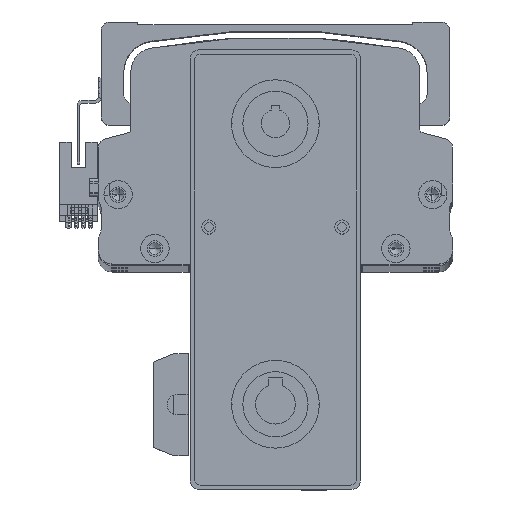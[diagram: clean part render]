
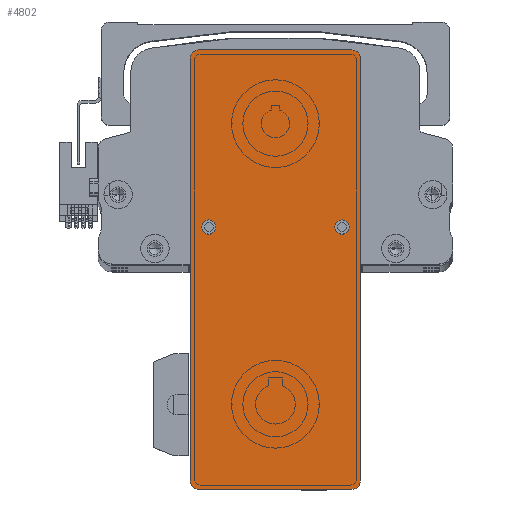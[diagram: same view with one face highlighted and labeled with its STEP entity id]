
A CAD part, top view. The second image highlights one B-rep face of the part: STEP entity #4802.
In plain terms, the highlighted planar face has unit normal (0, 0, 1) as drawn and (0, 0, -1) by its records, which use the part's own axes.
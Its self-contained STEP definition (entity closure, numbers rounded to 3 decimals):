
#572 = CARTESIAN_POINT ( 'NONE',  ( -77.5, 27., 0. ) ) ;
#2026 = EDGE_CURVE ( 'NONE', #9617, #29583, #80304, .T. ) ;
#4802 = ADVANCED_FACE ( 'NONE', ( #31908, #33966, #66808 ), #73308, .F. ) ;
#4939 = DIRECTION ( 'NONE',  ( -1., 0., 0. ) ) ;
#8603 = EDGE_CURVE ( 'NONE', #52304, #54530, #70162, .T. ) ;
#8796 = VECTOR ( 'NONE', #27834, 1000. ) ;
#9125 = DIRECTION ( 'NONE',  ( 0., 0., -1. ) ) ;
#9617 = VERTEX_POINT ( 'NONE', #47750 ) ;
#9789 = DIRECTION ( 'NONE',  ( 0., 0., -1. ) ) ;
#9922 = VERTEX_POINT ( 'NONE', #33512 ) ;
#10518 = CARTESIAN_POINT ( 'NONE',  ( -74.5, -27., 0. ) ) ;
#11411 = ORIENTED_EDGE ( 'NONE', *, *, #8603, .F. ) ;
#13031 = CARTESIAN_POINT ( 'NONE',  ( 77.5, -30., 0. ) ) ;
#14622 = VERTEX_POINT ( 'NONE', #29510 ) ;
#17074 = DIRECTION ( 'NONE',  ( 1., 0., 0. ) ) ;
#17429 = EDGE_CURVE ( 'NONE', #9922, #54530, #29741, .T. ) ;
#17569 = VERTEX_POINT ( 'NONE', #572 ) ;
#17681 = VERTEX_POINT ( 'NONE', #40943 ) ;
#18071 = DIRECTION ( 'NONE',  ( 0., 0., -1. ) ) ;
#18117 = CARTESIAN_POINT ( 'NONE',  ( 77.5, 27., 0. ) ) ;
#18924 = EDGE_CURVE ( 'NONE', #29583, #9617, #59158, .T. ) ;
#19188 = EDGE_CURVE ( 'NONE', #9922, #63904, #43659, .T. ) ;
#22691 = AXIS2_PLACEMENT_3D ( 'NONE', #38083, #83922, #44689 ) ;
#22693 = VERTEX_POINT ( 'NONE', #48273 ) ;
#23334 = VECTOR ( 'NONE', #72016, 1000. ) ;
#23470 = EDGE_LOOP ( 'NONE', ( #11411, #47085, #68885, #30826, #47291, #60055, #76781, #25246 ) ) ;
#24500 = EDGE_LOOP ( 'NONE', ( #52012, #68864 ) ) ;
#24632 = EDGE_LOOP ( 'NONE', ( #59171, #84117 ) ) ;
#25246 = ORIENTED_EDGE ( 'NONE', *, *, #17429, .T. ) ;
#26129 = VECTOR ( 'NONE', #28698, 1000. ) ;
#26953 = CIRCLE ( 'NONE', #39282, 3. ) ;
#27813 = CARTESIAN_POINT ( 'NONE',  ( 0., 0., 0. ) ) ;
#27834 = DIRECTION ( 'NONE',  ( -1., 0., 0. ) ) ;
#28040 = CARTESIAN_POINT ( 'NONE',  ( 77.5, -27., 0. ) ) ;
#28506 = VERTEX_POINT ( 'NONE', #60208 ) ;
#28698 = DIRECTION ( 'NONE',  ( 0., 1., 0. ) ) ;
#29510 = CARTESIAN_POINT ( 'NONE',  ( 74.5, -30., 0. ) ) ;
#29583 = VERTEX_POINT ( 'NONE', #41679 ) ;
#29741 = CIRCLE ( 'NONE', #22691, 3. ) ;
#30331 = CARTESIAN_POINT ( 'NONE',  ( -74.5, 27., 0. ) ) ;
#30344 = EDGE_CURVE ( 'NONE', #17569, #63904, #69604, .T. ) ;
#30826 = ORIENTED_EDGE ( 'NONE', *, *, #46581, .T. ) ;
#31523 = EDGE_CURVE ( 'NONE', #22693, #72518, #50789, .T. ) ;
#31908 = FACE_BOUND ( 'NONE', #24500, .T. ) ;
#33485 = AXIS2_PLACEMENT_3D ( 'NONE', #48383, #9125, #54958 ) ;
#33512 = CARTESIAN_POINT ( 'NONE',  ( 74.5, 30., 0. ) ) ;
#33966 = FACE_BOUND ( 'NONE', #24632, .T. ) ;
#34335 = DIRECTION ( 'NONE',  ( 1., 0., 0. ) ) ;
#35152 = CARTESIAN_POINT ( 'NONE',  ( 15., 23.5, 0. ) ) ;
#35692 = CARTESIAN_POINT ( 'NONE',  ( -74.5, 30., 0. ) ) ;
#35856 = EDGE_CURVE ( 'NONE', #28506, #14622, #42788, .T. ) ;
#36944 = DIRECTION ( 'NONE',  ( 1., 0., 0. ) ) ;
#38083 = CARTESIAN_POINT ( 'NONE',  ( 74.5, 27., 0. ) ) ;
#39282 = AXIS2_PLACEMENT_3D ( 'NONE', #10518, #56352, #17074 ) ;
#39454 = LINE ( 'NONE', #52893, #72260 ) ;
#40943 = CARTESIAN_POINT ( 'NONE',  ( -77.5, -27., 0. ) ) ;
#41679 = CARTESIAN_POINT ( 'NONE',  ( 12.5, 23.5, 0. ) ) ;
#41800 = DIRECTION ( 'NONE',  ( -1., 0., 0. ) ) ;
#42788 = LINE ( 'NONE', #13031, #23334 ) ;
#43659 = LINE ( 'NONE', #67068, #8796 ) ;
#44200 = DIRECTION ( 'NONE',  ( 0., 0., -1. ) ) ;
#44689 = DIRECTION ( 'NONE',  ( 1., 0., 0. ) ) ;
#46581 = EDGE_CURVE ( 'NONE', #28506, #17681, #26953, .T. ) ;
#47085 = ORIENTED_EDGE ( 'NONE', *, *, #60874, .T. ) ;
#47291 = ORIENTED_EDGE ( 'NONE', *, *, #62537, .F. ) ;
#47750 = CARTESIAN_POINT ( 'NONE',  ( 17.5, 23.5, 0. ) ) ;
#48031 = AXIS2_PLACEMENT_3D ( 'NONE', #49032, #9789, #55623 ) ;
#48273 = CARTESIAN_POINT ( 'NONE',  ( 12.5, -23.5, 0. ) ) ;
#48383 = CARTESIAN_POINT ( 'NONE',  ( 74.5, -27., 0. ) ) ;
#49032 = CARTESIAN_POINT ( 'NONE',  ( 15., -23.5, 0. ) ) ;
#50789 = CIRCLE ( 'NONE', #48031, 2.5 ) ;
#52012 = ORIENTED_EDGE ( 'NONE', *, *, #18924, .F. ) ;
#52304 = VERTEX_POINT ( 'NONE', #28040 ) ;
#52893 = CARTESIAN_POINT ( 'NONE',  ( -77.5, -30., 0. ) ) ;
#54530 = VERTEX_POINT ( 'NONE', #18117 ) ;
#54958 = DIRECTION ( 'NONE',  ( 1., 0., 0. ) ) ;
#55033 = AXIS2_PLACEMENT_3D ( 'NONE', #30331, #76165, #36944 ) ;
#55623 = DIRECTION ( 'NONE',  ( -1., 0., 0. ) ) ;
#56352 = DIRECTION ( 'NONE',  ( 0., 0., -1. ) ) ;
#57329 = CARTESIAN_POINT ( 'NONE',  ( 15., -23.5, 0. ) ) ;
#59158 = CIRCLE ( 'NONE', #72705, 2.5 ) ;
#59171 = ORIENTED_EDGE ( 'NONE', *, *, #31523, .F. ) ;
#59532 = DIRECTION ( 'NONE',  ( 0., -1., 0. ) ) ;
#60055 = ORIENTED_EDGE ( 'NONE', *, *, #30344, .T. ) ;
#60208 = CARTESIAN_POINT ( 'NONE',  ( -74.5, -30., 0. ) ) ;
#60874 = EDGE_CURVE ( 'NONE', #52304, #14622, #79931, .T. ) ;
#61368 = AXIS2_PLACEMENT_3D ( 'NONE', #27813, #73584, #34335 ) ;
#61756 = CARTESIAN_POINT ( 'NONE',  ( 17.5, -23.5, 0. ) ) ;
#62537 = EDGE_CURVE ( 'NONE', #17569, #17681, #39454, .T. ) ;
#63904 = VERTEX_POINT ( 'NONE', #35692 ) ;
#63936 = DIRECTION ( 'NONE',  ( -1., 0., 0. ) ) ;
#64333 = AXIS2_PLACEMENT_3D ( 'NONE', #35152, #81027, #41800 ) ;
#66808 = FACE_OUTER_BOUND ( 'NONE', #23470, .T. ) ;
#67068 = CARTESIAN_POINT ( 'NONE',  ( 77.5, 30., 0. ) ) ;
#68864 = ORIENTED_EDGE ( 'NONE', *, *, #2026, .F. ) ;
#68885 = ORIENTED_EDGE ( 'NONE', *, *, #35856, .F. ) ;
#69604 = CIRCLE ( 'NONE', #55033, 3. ) ;
#70162 = LINE ( 'NONE', #81408, #26129 ) ;
#70967 = EDGE_CURVE ( 'NONE', #72518, #22693, #81894, .T. ) ;
#72016 = DIRECTION ( 'NONE',  ( 1., 0., 0. ) ) ;
#72260 = VECTOR ( 'NONE', #59532, 1000. ) ;
#72518 = VERTEX_POINT ( 'NONE', #61756 ) ;
#72705 = AXIS2_PLACEMENT_3D ( 'NONE', #83439, #44200, #4939 ) ;
#73308 = PLANE ( 'NONE',  #61368 ) ;
#73584 = DIRECTION ( 'NONE',  ( 0., 0., 1. ) ) ;
#76165 = DIRECTION ( 'NONE',  ( 0., 0., -1. ) ) ;
#76781 = ORIENTED_EDGE ( 'NONE', *, *, #19188, .F. ) ;
#79931 = CIRCLE ( 'NONE', #33485, 3. ) ;
#80304 = CIRCLE ( 'NONE', #64333, 2.5 ) ;
#81027 = DIRECTION ( 'NONE',  ( 0., 0., -1. ) ) ;
#81408 = CARTESIAN_POINT ( 'NONE',  ( 77.5, -30., 0. ) ) ;
#81549 = AXIS2_PLACEMENT_3D ( 'NONE', #57329, #18071, #63936 ) ;
#81894 = CIRCLE ( 'NONE', #81549, 2.5 ) ;
#83439 = CARTESIAN_POINT ( 'NONE',  ( 15., 23.5, 0. ) ) ;
#83922 = DIRECTION ( 'NONE',  ( 0., 0., -1. ) ) ;
#84117 = ORIENTED_EDGE ( 'NONE', *, *, #70967, .F. ) ;
